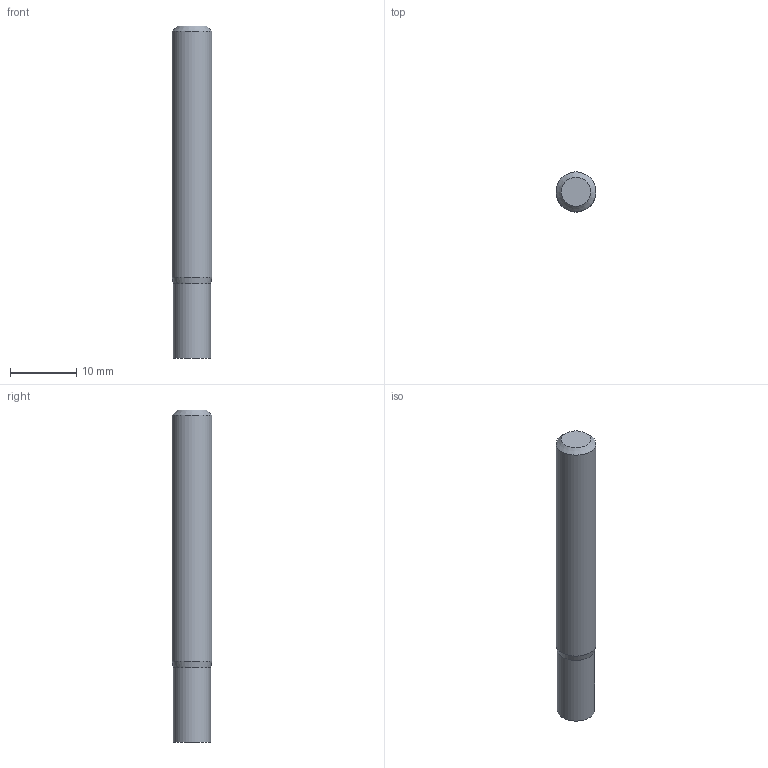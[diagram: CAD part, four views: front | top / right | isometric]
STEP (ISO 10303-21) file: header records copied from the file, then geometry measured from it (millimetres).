
FILE_DESCRIPTION((''),'2;1');
FILE_NAME('C:\Users\nsx150\AppData\Local\Temp\Mastercam 2021\E36A1X9CCL\TEMP.step','2023-04-21T15:13:14',(''),(''),'STEP Write','Mastercam 2021 ... CNC Software, Inc.','');
FILE_SCHEMA(('AUTOMOTIVE_DESIGN'));
Length unit declared in the file: millimetre
Products named in the file (1): None
Bounding box: 6 x 6 x 50 mm (x, y, z)
Volume: 1365.7 mm3; surface area: 1020.7 mm2
Topology: 2 solids, 2 shells, 8 faces, 10 edges, 6 vertices
Faces by surface type: plane 4, cylinder 2, cone 2
Full cylindrical faces by diameter (mm): 5.6 x1, 6 x1
Entity records: 190 total; most frequent: DIRECTION 32, CARTESIAN_POINT 22, AXIS2_PLACEMENT_3D 16, ORIENTED_EDGE 12, EDGE_LOOP 12, STYLED_ITEM 11, ADVANCED_FACE 8, VERTEX_POINT 6
